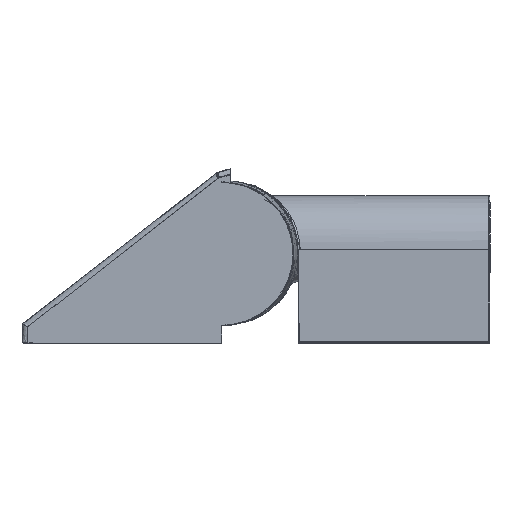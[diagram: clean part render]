
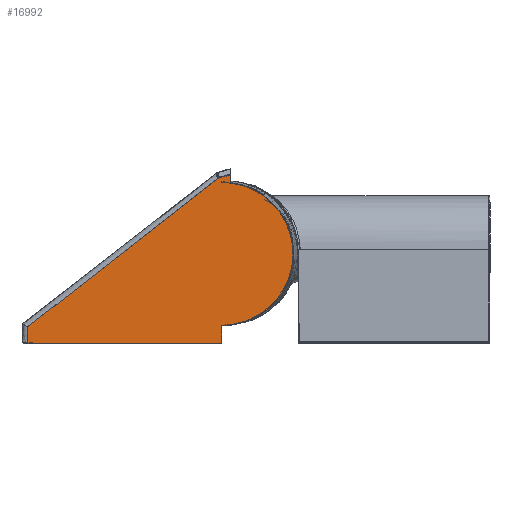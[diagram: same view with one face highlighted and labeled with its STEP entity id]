
A CAD part, left-side view. The second image highlights one B-rep face of the part: STEP entity #16992.
In plain terms, the highlighted free-form (B-spline) face has degree [1, 1] with [2, 2] control points.
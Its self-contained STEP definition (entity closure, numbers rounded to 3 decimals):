
#9190=CARTESIAN_POINT('',(-895.0,-388.042,-2.836));
#9191=VERTEX_POINT('',#9190);
#9198=CARTESIAN_POINT('',(-895.0,-388.042,-37.));
#9199=VERTEX_POINT('',#9198);
#9200=CARTESIAN_POINT('',(-895.0,-388.042,-37.));
#9201=DIRECTION('',(0.0,0.0,1.0));
#9202=VECTOR('',#9201,34.164);
#9203=LINE('',#9200,#9202);
#9204=EDGE_CURVE('',#9199,#9191,#9203,.T.);
#9220=CARTESIAN_POINT('',(-895.0,-405.055,275.797));
#9221=VERTEX_POINT('',#9220);
#9228=CARTESIAN_POINT('',(-895.0,-388.042,137.));
#9229=DIRECTION('',(-1.0,0.0,0.0));
#9230=DIRECTION('',(0.0,0.0,-1.0));
#9231=AXIS2_PLACEMENT_3D('',#9228,#9229,#9230);
#9232=CIRCLE('',#9231,139.836);
#9233=EDGE_CURVE('',#9191,#9221,#9232,.T.);
#13626=CARTESIAN_POINT('',(-895.0,-383.434,285.918));
#13627=VERTEX_POINT('',#13626);
#14140=CARTESIAN_POINT('',(-895.,-11.6,-4.803));
#14141=VERTEX_POINT('',#14140);
#14159=CARTESIAN_POINT('',(-895.0,-383.434,285.918));
#14160=CARTESIAN_POINT('',(-895.0,-259.15,189.447));
#14161=CARTESIAN_POINT('',(-895.0,-135.868,91.687));
#14162=CARTESIAN_POINT('',(-895.0,-11.6,-4.803));
#14163=B_SPLINE_CURVE_WITH_KNOTS('',3,(#14159,#14160,#14161,#14162),.UNSPECIFIED.,.F.,.U.,(4,4),(0.193,47.392),.UNSPECIFIED.);
#14164=EDGE_CURVE('',#13627,#14141,#14163,.T.);
#14197=CARTESIAN_POINT('',(-895.0,-405.055,292.117));
#14198=VERTEX_POINT('',#14197);
#14199=CARTESIAN_POINT('',(-895.0,-405.055,292.117));
#14200=DIRECTION('',(0.0,0.961,-0.276));
#14201=VECTOR('',#14200,22.492);
#14202=LINE('',#14199,#14201);
#14203=EDGE_CURVE('',#14198,#13627,#14202,.T.);
#16554=CARTESIAN_POINT('',(-895.0,-11.6,-37.0));
#16555=VERTEX_POINT('',#16554);
#16556=CARTESIAN_POINT('',(-895.0,-11.6,-4.803));
#16557=DIRECTION('',(0.0,0.0,-1.0));
#16558=VECTOR('',#16557,32.197);
#16559=LINE('',#16556,#16558);
#16560=EDGE_CURVE('',#14141,#16555,#16559,.T.);
#16879=CARTESIAN_POINT('',(-895.0,-405.055,275.797));
#16880=DIRECTION('',(0.0,0.0,1.0));
#16881=VECTOR('',#16880,16.32);
#16882=LINE('',#16879,#16881);
#16883=EDGE_CURVE('',#9221,#14198,#16882,.T.);
#16973=CARTESIAN_POINT('',(-895.0,-11.6,292.117));
#16974=CARTESIAN_POINT('',(-895.0,-11.6,-37.));
#16975=CARTESIAN_POINT('',(-895.0,-527.879,292.117));
#16976=CARTESIAN_POINT('',(-895.0,-527.879,-37.));
#16977=B_SPLINE_SURFACE_WITH_KNOTS('',1,1,((#16973,#16975),(#16974,#16976)),.UNSPECIFIED.,.F.,.F.,.U.,(2,2),(2,2),(0.0,329.117),(0.0,516.279),.UNSPECIFIED.);
#16978=CARTESIAN_POINT('',(-895.0,-11.6,-37.0));
#16979=DIRECTION('',(0.0,-1.0,0.0));
#16980=VECTOR('',#16979,376.442);
#16981=LINE('',#16978,#16980);
#16982=EDGE_CURVE('',#16555,#9199,#16981,.T.);
#16983=ORIENTED_EDGE('',*,*,#16982,.T.);
#16984=ORIENTED_EDGE('',*,*,#9204,.T.);
#16985=ORIENTED_EDGE('',*,*,#9233,.T.);
#16986=ORIENTED_EDGE('',*,*,#16883,.T.);
#16987=ORIENTED_EDGE('',*,*,#14203,.T.);
#16988=ORIENTED_EDGE('',*,*,#14164,.T.);
#16989=ORIENTED_EDGE('',*,*,#16560,.T.);
#16990=EDGE_LOOP('',(#16983,#16984,#16985,#16986,#16987,#16988,#16989));
#16991=FACE_OUTER_BOUND('',#16990,.T.);
#16992=ADVANCED_FACE('',(#16991),#16977,.T.);
